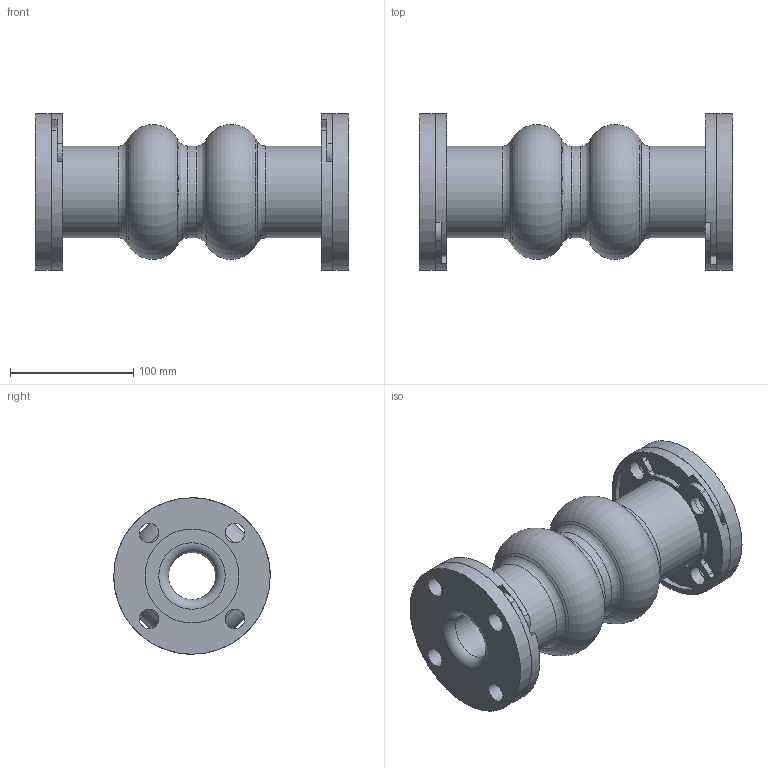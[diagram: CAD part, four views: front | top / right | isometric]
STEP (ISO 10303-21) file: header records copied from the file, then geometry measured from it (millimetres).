
FILE_DESCRIPTION(/* description */ (''),/* implementation_level */ '2;1');
FILE_NAME(/* name */ 'C:\001_Work\Designs\Mercer2014\702 1.5IDx10FF.stp',/* time_stamp */ '2016-04-10T14:34:42-04:00',/* author */ ('rramoutar'),/* organization */ ('Mason Industries Inc.'),/* preprocessor_version */ 'ST-DEVELOPER v15.6',/* originating_system */ 'Autodesk Inventor 2015',/* authorisation */ '');
FILE_SCHEMA (('CONFIG_CONTROL_DESIGN'));
Length unit declared in the file: inch
Products named in the file (1): 702 1.5IDx10FF
Bounding box: 254 x 127 x 127 mm (x, y, z)
Volume: 1355930.2 mm3; surface area: 215120.8 mm2
Topology: 5 solids, 5 shells, 192 faces, 490 edges, 320 vertices
Faces by surface type: cylinder 108, plane 54, torus 22, cone 8
Full cylindrical faces by diameter (mm): 15.875 x20, 38.1 x3, 74.612 x3, 127 x2
Entity records: 6083 total; most frequent: CARTESIAN_POINT 1113, DIRECTION 1066, ORIENTED_EDGE 872, AXIS2_PLACEMENT_3D 453, EDGE_CURVE 436, VERTEX_POINT 316, EDGE_LOOP 296, CIRCLE 260
